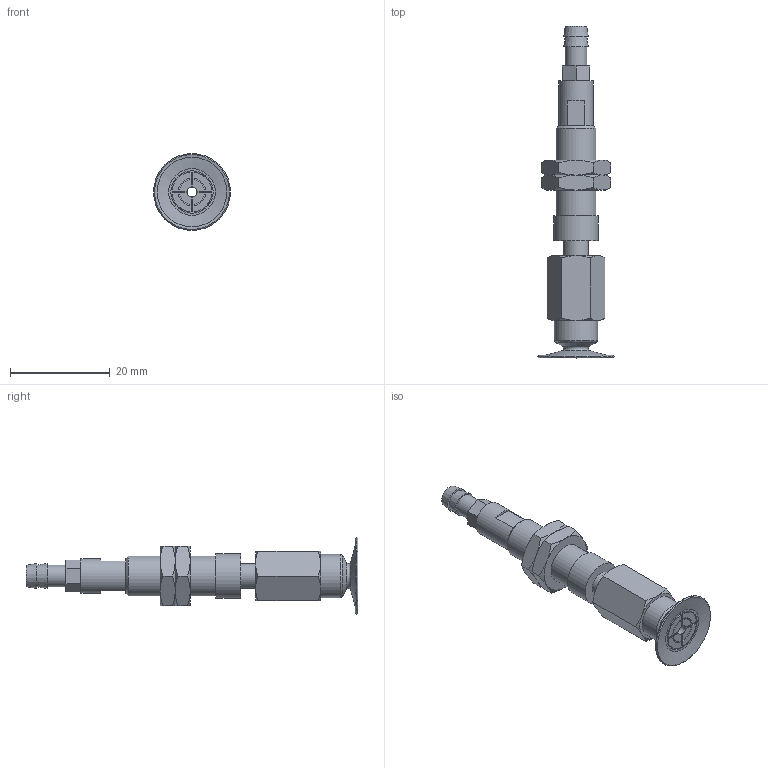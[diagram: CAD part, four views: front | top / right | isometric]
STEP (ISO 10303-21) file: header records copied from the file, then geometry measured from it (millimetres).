
FILE_DESCRIPTION(('STEP AP203'),'1');
FILE_NAME('-T.stp','2025-08-26T08:51:06',(' '),(' '),'Spatial InterOp 3D',' ',' ');
FILE_SCHEMA(('CONFIG_CONTROL_DESIGN'));
Length unit declared in the file: millimetre
Products named in the file (7): BNABPATS-15B-3-※-T; ADAPTER; NAPATS-10A-3--M; NAPATS-10A-3--F; Nut-10A-S; BPAG-15B-※_3D; T
Assembly tree (7 placements, depth 2):
  BNABPATS-15B-3-※-T
    ADAPTER
    NAPATS-10A-3--M
    NAPATS-10A-3--F
    Nut-10A-S  x2
    BPAG-15B-※_3D
    T
Bounding box: 15.4 x 66.5 x 15.4 mm (x, y, z)
Volume: 3581.3 mm3; surface area: 4574.2 mm2
Topology: 7 solids, 7 shells, 173 faces, 380 edges, 232 vertices
Faces by surface type: plane 73, cone 58, cylinder 32, torus 10
Full cylindrical faces by diameter (mm): 2 x3, 3 x1, 4 x2, 4.134 x1, 4.3 x1, 5 x3, 6 x2, 7 x1, 7.188 x2, 8 x1, 8.5 x1, 8.7 x1, 9 x1
Entity records: 4410 total; most frequent: CARTESIAN_POINT 997, DIRECTION 648, ORIENTED_EDGE 558, EDGE_CURVE 279, AXIS2_PLACEMENT_3D 274, EDGE_LOOP 214, VERTEX_POINT 193, FACE_OUTER_BOUND 179
